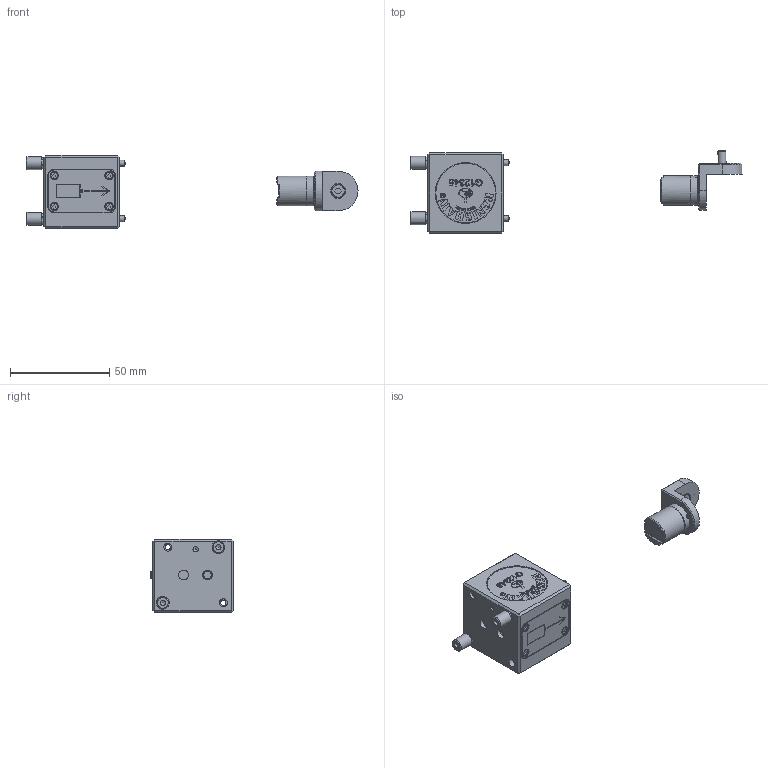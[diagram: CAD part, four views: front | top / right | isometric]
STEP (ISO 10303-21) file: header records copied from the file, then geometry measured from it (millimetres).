
FILE_DESCRIPTION(/* description */ (''),/* implementation_level */ '2;1');
FILE_NAME(/* name */ 'LA_8003_3244_A.stp',/* time_stamp */ '2011-12-20T14:35:18+00:00',/* author */ (''),/* organization */ (''),/* preprocessor_version */ 'ST-DEVELOPER v11',/* originating_system */ 'SIEMENS PLM Software NX 7.5',/* authorisation */ '');
FILE_SCHEMA (('CONFIG_CONTROL_DESIGN'));
Length unit declared in the file: millimetre
Products named in the file (1): ad13AC0Bhsll
Bounding box: 167.02 x 41.6 x 37 mm (x, y, z)
Volume: 61205.7 mm3; surface area: 18146.3 mm2
Topology: 4 solids, 16 shells, 782 faces, 1996 edges, 1317 vertices
Faces by surface type: plane 522, extrusion 107, cylinder 95, cone 45, sphere 9, torus 4
Full cylindrical faces by diameter (mm): 1.97 x6, 2.2 x1, 2.25 x2, 2.5 x1, 2.6 x6, 2.874 x2, 3 x5, 3.5 x3, 3.8 x4, 4 x9, 4.2 x4, 4.5 x1, 4.9 x1, 5 x8, 5.2 x3, 6 x5, 6.4 x2, 7 x1, 7.5 x1, 10 x1, 10.2 x1, 12.7 x1, 12.9 x1, 13 x1, 15 x2, 25.3 x1, 25.4 x1, 28.6 x1, 30 x2, 30.6 x1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
Entity records: 22468 total; most frequent: CARTESIAN_POINT 4677, ORIENTED_EDGE 3560, DIRECTION 3262, EDGE_CURVE 1780, VECTOR 1422, LINE 1315, VERTEX_POINT 1244, EDGE_LOOP 1001
